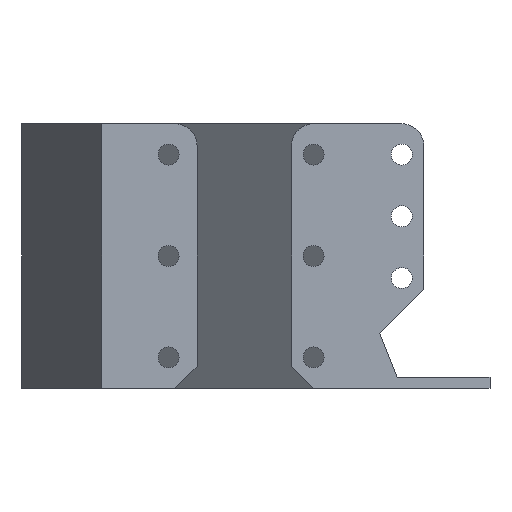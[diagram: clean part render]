
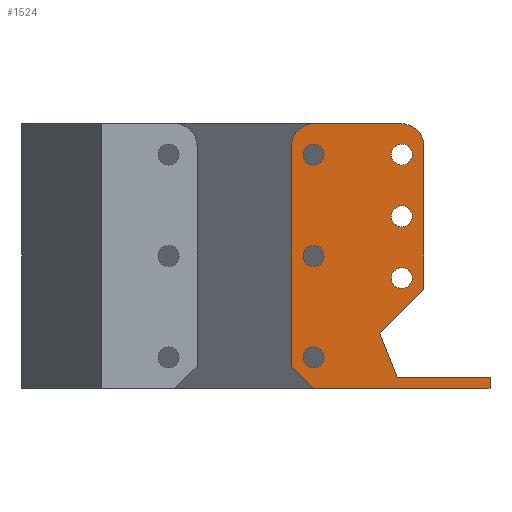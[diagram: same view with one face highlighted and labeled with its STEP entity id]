
A CAD part, left-side view. The second image highlights one B-rep face of the part: STEP entity #1524.
In plain terms, the highlighted planar face has unit normal (-1, 0, 0).
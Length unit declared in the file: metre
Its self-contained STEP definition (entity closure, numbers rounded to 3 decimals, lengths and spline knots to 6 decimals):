
#50=PLANE('',#1686);
#175=LINE('',#2529,#321);
#180=LINE('',#2541,#326);
#181=LINE('',#2543,#327);
#186=LINE('',#2555,#332);
#187=LINE('',#2557,#333);
#189=LINE('',#2561,#335);
#192=LINE('',#2567,#338);
#193=LINE('',#2569,#339);
#195=LINE('',#2572,#341);
#321=VECTOR('',#2083,1.);
#326=VECTOR('',#2094,1.);
#327=VECTOR('',#2097,1.);
#332=VECTOR('',#2108,1.);
#333=VECTOR('',#2111,1.);
#335=VECTOR('',#2115,1.);
#338=VECTOR('',#2120,1.);
#339=VECTOR('',#2123,1.);
#341=VECTOR('',#2127,1.);
#760=ORIENTED_EDGE('',*,*,#805,.T.);
#761=ORIENTED_EDGE('',*,*,#948,.T.);
#762=ORIENTED_EDGE('',*,*,#801,.T.);
#763=ORIENTED_EDGE('',*,*,#950,.T.);
#764=ORIENTED_EDGE('',*,*,#797,.T.);
#765=ORIENTED_EDGE('',*,*,#952,.T.);
#766=ORIENTED_EDGE('',*,*,#817,.T.);
#767=ORIENTED_EDGE('',*,*,#938,.T.);
#768=ORIENTED_EDGE('',*,*,#813,.T.);
#769=ORIENTED_EDGE('',*,*,#940,.T.);
#770=ORIENTED_EDGE('',*,*,#809,.T.);
#771=ORIENTED_EDGE('',*,*,#942,.T.);
#772=ORIENTED_EDGE('',*,*,#986,.T.);
#773=ORIENTED_EDGE('',*,*,#992,.F.);
#774=ORIENTED_EDGE('',*,*,#989,.T.);
#775=ORIENTED_EDGE('',*,*,#1001,.T.);
#776=ORIENTED_EDGE('',*,*,#982,.T.);
#777=ORIENTED_EDGE('',*,*,#985,.T.);
#778=ORIENTED_EDGE('',*,*,#979,.T.);
#779=ORIENTED_EDGE('',*,*,#999,.F.);
#780=ORIENTED_EDGE('',*,*,#995,.T.);
#781=ORIENTED_EDGE('',*,*,#998,.T.);
#782=ORIENTED_EDGE('',*,*,#993,.F.);
#797=EDGE_CURVE('',#1018,#1017,#1157,.T.);
#801=EDGE_CURVE('',#1022,#1021,#1159,.T.);
#805=EDGE_CURVE('',#1026,#1025,#1161,.T.);
#809=EDGE_CURVE('',#1030,#1029,#1163,.T.);
#813=EDGE_CURVE('',#1034,#1033,#1165,.T.);
#817=EDGE_CURVE('',#1038,#1037,#1167,.T.);
#938=EDGE_CURVE('',#1037,#1038,#1201,.T.);
#940=EDGE_CURVE('',#1033,#1034,#1203,.T.);
#942=EDGE_CURVE('',#1029,#1030,#1205,.T.);
#948=EDGE_CURVE('',#1025,#1026,#1208,.T.);
#950=EDGE_CURVE('',#1021,#1022,#1210,.T.);
#952=EDGE_CURVE('',#1017,#1018,#1212,.T.);
#979=EDGE_CURVE('',#1139,#1140,#175,.T.);
#982=EDGE_CURVE('',#1141,#1142,#1222,.F.);
#985=EDGE_CURVE('',#1142,#1139,#180,.T.);
#986=EDGE_CURVE('',#1143,#1144,#181,.F.);
#989=EDGE_CURVE('',#1145,#1146,#1223,.F.);
#992=EDGE_CURVE('',#1145,#1144,#186,.T.);
#993=EDGE_CURVE('',#1143,#1147,#187,.T.);
#995=EDGE_CURVE('',#1148,#1149,#189,.T.);
#998=EDGE_CURVE('',#1149,#1147,#192,.T.);
#999=EDGE_CURVE('',#1148,#1140,#193,.T.);
#1001=EDGE_CURVE('',#1146,#1141,#195,.T.);
#1017=VERTEX_POINT('',#2166);
#1018=VERTEX_POINT('',#2168);
#1021=VERTEX_POINT('',#2175);
#1022=VERTEX_POINT('',#2177);
#1025=VERTEX_POINT('',#2184);
#1026=VERTEX_POINT('',#2186);
#1029=VERTEX_POINT('',#2193);
#1030=VERTEX_POINT('',#2195);
#1033=VERTEX_POINT('',#2202);
#1034=VERTEX_POINT('',#2204);
#1037=VERTEX_POINT('',#2211);
#1038=VERTEX_POINT('',#2213);
#1139=VERTEX_POINT('',#2530);
#1140=VERTEX_POINT('',#2531);
#1141=VERTEX_POINT('',#2536);
#1142=VERTEX_POINT('',#2537);
#1143=VERTEX_POINT('',#2544);
#1144=VERTEX_POINT('',#2545);
#1145=VERTEX_POINT('',#2550);
#1146=VERTEX_POINT('',#2551);
#1147=VERTEX_POINT('',#2558);
#1148=VERTEX_POINT('',#2562);
#1149=VERTEX_POINT('',#2563);
#1157=CIRCLE('',#1549,0.003023);
#1159=CIRCLE('',#1552,0.003023);
#1161=CIRCLE('',#1555,0.003023);
#1163=CIRCLE('',#1558,0.003023);
#1165=CIRCLE('',#1561,0.003023);
#1167=CIRCLE('',#1564,0.003023);
#1201=CIRCLE('',#1636,0.003023);
#1203=CIRCLE('',#1639,0.003023);
#1205=CIRCLE('',#1642,0.003023);
#1208=CIRCLE('',#1647,0.003023);
#1210=CIRCLE('',#1650,0.003023);
#1212=CIRCLE('',#1653,0.003023);
#1222=CIRCLE('',#1674,0.00635);
#1223=CIRCLE('',#1678,0.00635);
#1312=EDGE_LOOP('',(#760,#761));
#1313=EDGE_LOOP('',(#762,#763));
#1314=EDGE_LOOP('',(#764,#765));
#1315=EDGE_LOOP('',(#766,#767));
#1316=EDGE_LOOP('',(#768,#769));
#1317=EDGE_LOOP('',(#770,#771));
#1318=EDGE_LOOP('',(#772,#773,#774,#775,#776,#777,#778,#779,#780,#781,#782));
#1407=FACE_BOUND('',#1312,.T.);
#1408=FACE_BOUND('',#1313,.T.);
#1409=FACE_BOUND('',#1314,.T.);
#1410=FACE_BOUND('',#1315,.T.);
#1411=FACE_BOUND('',#1316,.T.);
#1412=FACE_BOUND('',#1317,.T.);
#1413=FACE_BOUND('',#1318,.T.);
#1524=ADVANCED_FACE('',(#1407,#1408,#1409,#1410,#1411,#1412,#1413),#50,
 .F.);
#1549=AXIS2_PLACEMENT_3D('',#2167,#1718,#1719);
#1552=AXIS2_PLACEMENT_3D('',#2176,#1726,#1727);
#1555=AXIS2_PLACEMENT_3D('',#2185,#1734,#1735);
#1558=AXIS2_PLACEMENT_3D('',#2194,#1742,#1743);
#1561=AXIS2_PLACEMENT_3D('',#2203,#1750,#1751);
#1564=AXIS2_PLACEMENT_3D('',#2212,#1758,#1759);
#1636=AXIS2_PLACEMENT_3D('',#2455,#1989,#1990);
#1639=AXIS2_PLACEMENT_3D('',#2458,#1995,#1996);
#1642=AXIS2_PLACEMENT_3D('',#2461,#2001,#2002);
#1647=AXIS2_PLACEMENT_3D('',#2472,#2014,#2015);
#1650=AXIS2_PLACEMENT_3D('',#2475,#2020,#2021);
#1653=AXIS2_PLACEMENT_3D('',#2478,#2026,#2027);
#1674=AXIS2_PLACEMENT_3D('',#2535,#2088,#2089);
#1678=AXIS2_PLACEMENT_3D('',#2549,#2102,#2103);
#1686=AXIS2_PLACEMENT_3D('',#2575,#2131,#2132);
#1718=DIRECTION('',(1.,0.,0.));
#1719=DIRECTION('',(0.,1.,0.));
#1726=DIRECTION('',(1.,0.,0.));
#1727=DIRECTION('',(0.,1.,0.));
#1734=DIRECTION('',(1.,0.,0.));
#1735=DIRECTION('',(0.,1.,0.));
#1742=DIRECTION('',(1.,0.,0.));
#1743=DIRECTION('',(0.,1.,0.));
#1750=DIRECTION('',(1.,0.,0.));
#1751=DIRECTION('',(0.,1.,0.));
#1758=DIRECTION('',(1.,0.,0.));
#1759=DIRECTION('',(0.,1.,0.));
#1989=DIRECTION('',(1.,0.,0.));
#1990=DIRECTION('',(0.,1.,0.));
#1995=DIRECTION('',(1.,0.,0.));
#1996=DIRECTION('',(0.,1.,0.));
#2001=DIRECTION('',(1.,0.,0.));
#2002=DIRECTION('',(0.,1.,0.));
#2014=DIRECTION('',(1.,0.,0.));
#2015=DIRECTION('',(0.,1.,0.));
#2020=DIRECTION('',(1.,0.,0.));
#2021=DIRECTION('',(0.,1.,0.));
#2026=DIRECTION('',(1.,0.,0.));
#2027=DIRECTION('',(0.,1.,0.));
#2083=DIRECTION('',(0.,-0.707,-0.707));
#2088=DIRECTION('',(1.,0.,0.));
#2089=DIRECTION('',(0.,1.,0.));
#2094=DIRECTION('',(0.,0.,-1.));
#2097=DIRECTION('',(0.,0.707,-0.707));
#2102=DIRECTION('',(1.,0.,0.));
#2103=DIRECTION('',(0.,1.,0.));
#2108=DIRECTION('',(0.,0.,-1.));
#2111=DIRECTION('',(0.,-0.371,-0.928));
#2115=DIRECTION('',(0.,0.,1.));
#2120=DIRECTION('',(0.,1.,0.));
#2123=DIRECTION('',(0.,1.,0.));
#2127=DIRECTION('',(0.,1.,0.));
#2131=DIRECTION('',(1.,0.,0.));
#2132=DIRECTION('',(0.,1.,0.));
#2166=CARTESIAN_POINT('',(0.,-0.103948,0.06731));
#2167=CARTESIAN_POINT('',(0.,-0.106971,0.06731));
#2168=CARTESIAN_POINT('',(0.,-0.109993,0.06731));
#2175=CARTESIAN_POINT('',(0.,-0.103948,0.0381));
#2176=CARTESIAN_POINT('',(0.,-0.106971,0.0381));
#2177=CARTESIAN_POINT('',(0.,-0.109993,0.0381));
#2184=CARTESIAN_POINT('',(0.,-0.103948,0.00889));
#2185=CARTESIAN_POINT('',(0.,-0.106971,0.00889));
#2186=CARTESIAN_POINT('',(0.,-0.109993,0.00889));
#2193=CARTESIAN_POINT('',(0.,-0.129348,0.04953));
#2194=CARTESIAN_POINT('',(0.,-0.132371,0.04953));
#2195=CARTESIAN_POINT('',(0.,-0.135393,0.04953));
#2202=CARTESIAN_POINT('',(0.,-0.129348,0.03175));
#2203=CARTESIAN_POINT('',(0.,-0.132371,0.03175));
#2204=CARTESIAN_POINT('',(0.,-0.135393,0.03175));
#2211=CARTESIAN_POINT('',(0.,-0.129348,0.06731));
#2212=CARTESIAN_POINT('',(0.,-0.132371,0.06731));
#2213=CARTESIAN_POINT('',(0.,-0.135393,0.06731));
#2455=CARTESIAN_POINT('',(0.,-0.132371,0.06731));
#2458=CARTESIAN_POINT('',(0.,-0.132371,0.03175));
#2461=CARTESIAN_POINT('',(0.,-0.132371,0.04953));
#2472=CARTESIAN_POINT('',(0.,-0.106971,0.00889));
#2475=CARTESIAN_POINT('',(0.,-0.106971,0.0381));
#2478=CARTESIAN_POINT('',(0.,-0.106971,0.06731));
#2529=CARTESIAN_POINT('',(0.,-0.100621,0.00635));
#2530=CARTESIAN_POINT('',(0.,-0.100621,0.00635));
#2531=CARTESIAN_POINT('',(0.,-0.106971,0.));
#2535=CARTESIAN_POINT('',(0.,-0.106971,0.06985));
#2536=CARTESIAN_POINT('',(0.,-0.106971,0.0762));
#2537=CARTESIAN_POINT('',(0.,-0.100621,0.06985));
#2541=CARTESIAN_POINT('',(0.,-0.100621,0.0381));
#2543=CARTESIAN_POINT('',(0.,-0.126021,0.015875));
#2544=CARTESIAN_POINT('',(0.,-0.126021,0.015875));
#2545=CARTESIAN_POINT('',(0.,-0.138721,0.028575));
#2549=CARTESIAN_POINT('',(0.,-0.132371,0.06985));
#2550=CARTESIAN_POINT('',(0.,-0.138721,0.06985));
#2551=CARTESIAN_POINT('',(0.,-0.132371,0.0762));
#2555=CARTESIAN_POINT('',(0.,-0.138721,0.046038));
#2557=CARTESIAN_POINT('',(0.,-0.128561,0.009525));
#2558=CARTESIAN_POINT('',(0.,-0.131101,0.003175));
#2561=CARTESIAN_POINT('',(0.,-0.157771,0.0381));
#2562=CARTESIAN_POINT('',(0.,-0.157771,0.));
#2563=CARTESIAN_POINT('',(0.,-0.157771,0.003175));
#2567=CARTESIAN_POINT('',(0.,-0.157771,0.003175));
#2569=CARTESIAN_POINT('',(0.,-0.091485,0.));
#2572=CARTESIAN_POINT('',(0.,-0.091485,0.0762));
#2575=CARTESIAN_POINT('',(0.,-0.083288,0.0254));
